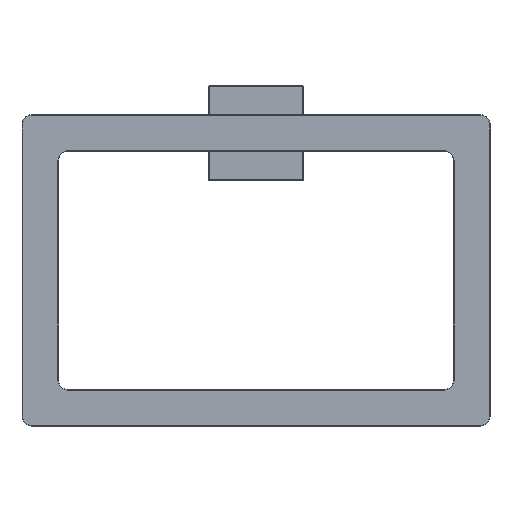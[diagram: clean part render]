
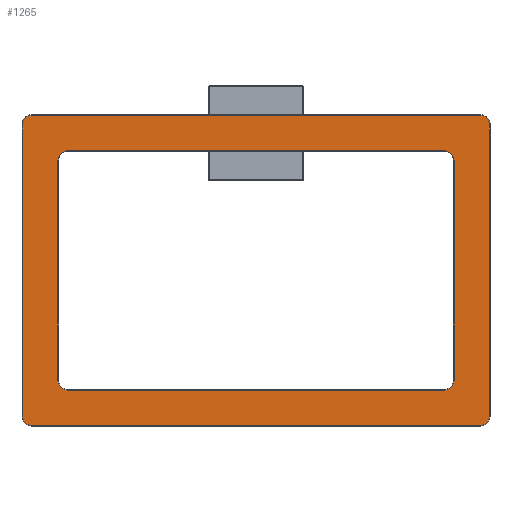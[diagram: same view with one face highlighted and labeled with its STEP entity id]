
A CAD part, top view. The second image highlights one B-rep face of the part: STEP entity #1265.
In plain terms, the highlighted planar face has unit normal (0, 0, 1).
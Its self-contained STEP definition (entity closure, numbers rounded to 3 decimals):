
#36=FACE_BOUND('',#217,.T.);
#131=FACE_OUTER_BOUND('',#216,.T.);
#216=EDGE_LOOP('',(#1061,#1062,#1063,#1064,#1065,#1066,#1067,#1068));
#217=EDGE_LOOP('',(#1069,#1070,#1071,#1072,#1073,#1074,#1075,#1076));
#294=CIRCLE('',#1404,4.3);
#297=CIRCLE('',#1409,4.3);
#301=CIRCLE('',#1415,4.3);
#304=CIRCLE('',#1420,4.3);
#305=CIRCLE('',#1423,3.7);
#306=CIRCLE('',#1424,3.7);
#307=CIRCLE('',#1425,3.7);
#308=CIRCLE('',#1426,3.7);
#400=LINE('',#2153,#496);
#401=LINE('',#2161,#497);
#402=LINE('',#2172,#498);
#404=LINE('',#2183,#500);
#407=LINE('',#2194,#503);
#408=LINE('',#2198,#504);
#409=LINE('',#2202,#505);
#410=LINE('',#2205,#506);
#496=VECTOR('',#1735,10.);
#497=VECTOR('',#1746,10.);
#498=VECTOR('',#1759,10.);
#500=VECTOR('',#1773,10.);
#503=VECTOR('',#1786,10.);
#504=VECTOR('',#1789,10.);
#505=VECTOR('',#1792,10.);
#506=VECTOR('',#1795,10.);
#598=VERTEX_POINT('',#2149);
#599=VERTEX_POINT('',#2151);
#600=VERTEX_POINT('',#2155);
#601=VERTEX_POINT('',#2159);
#603=VERTEX_POINT('',#2164);
#605=VERTEX_POINT('',#2170);
#607=VERTEX_POINT('',#2176);
#608=VERTEX_POINT('',#2181);
#609=VERTEX_POINT('',#2190);
#610=VERTEX_POINT('',#2191);
#611=VERTEX_POINT('',#2193);
#612=VERTEX_POINT('',#2195);
#613=VERTEX_POINT('',#2197);
#614=VERTEX_POINT('',#2199);
#615=VERTEX_POINT('',#2201);
#616=VERTEX_POINT('',#2203);
#748=EDGE_CURVE('',#599,#598,#400,.T.);
#750=EDGE_CURVE('',#600,#599,#294,.T.);
#752=EDGE_CURVE('',#601,#600,#401,.T.);
#754=EDGE_CURVE('',#603,#601,#297,.T.);
#757=EDGE_CURVE('',#605,#603,#402,.T.);
#760=EDGE_CURVE('',#607,#605,#301,.T.);
#763=EDGE_CURVE('',#608,#607,#404,.T.);
#765=EDGE_CURVE('',#598,#608,#304,.T.);
#767=EDGE_CURVE('',#609,#610,#305,.T.);
#768=EDGE_CURVE('',#611,#609,#407,.T.);
#769=EDGE_CURVE('',#612,#611,#306,.T.);
#770=EDGE_CURVE('',#613,#612,#408,.T.);
#771=EDGE_CURVE('',#614,#613,#307,.T.);
#772=EDGE_CURVE('',#615,#614,#409,.T.);
#773=EDGE_CURVE('',#616,#615,#308,.T.);
#774=EDGE_CURVE('',#610,#616,#410,.T.);
#1061=ORIENTED_EDGE('',*,*,#767,.F.);
#1062=ORIENTED_EDGE('',*,*,#768,.F.);
#1063=ORIENTED_EDGE('',*,*,#769,.F.);
#1064=ORIENTED_EDGE('',*,*,#770,.F.);
#1065=ORIENTED_EDGE('',*,*,#771,.F.);
#1066=ORIENTED_EDGE('',*,*,#772,.F.);
#1067=ORIENTED_EDGE('',*,*,#773,.F.);
#1068=ORIENTED_EDGE('',*,*,#774,.F.);
#1069=ORIENTED_EDGE('',*,*,#748,.F.);
#1070=ORIENTED_EDGE('',*,*,#750,.F.);
#1071=ORIENTED_EDGE('',*,*,#752,.F.);
#1072=ORIENTED_EDGE('',*,*,#754,.F.);
#1073=ORIENTED_EDGE('',*,*,#757,.F.);
#1074=ORIENTED_EDGE('',*,*,#760,.F.);
#1075=ORIENTED_EDGE('',*,*,#763,.F.);
#1076=ORIENTED_EDGE('',*,*,#765,.F.);
#1204=PLANE('',#1422);
#1265=ADVANCED_FACE('',(#131,#36),#1204,.T.);
#1404=AXIS2_PLACEMENT_3D('',#2157,#1740,#1741);
#1409=AXIS2_PLACEMENT_3D('',#2166,#1751,#1752);
#1415=AXIS2_PLACEMENT_3D('',#2178,#1765,#1766);
#1420=AXIS2_PLACEMENT_3D('',#2186,#1777,#1778);
#1422=AXIS2_PLACEMENT_3D('',#2189,#1782,#1783);
#1423=AXIS2_PLACEMENT_3D('',#2192,#1784,#1785);
#1424=AXIS2_PLACEMENT_3D('',#2196,#1787,#1788);
#1425=AXIS2_PLACEMENT_3D('',#2200,#1790,#1791);
#1426=AXIS2_PLACEMENT_3D('',#2204,#1793,#1794);
#1735=DIRECTION('',(-1.,0.,0.));
#1740=DIRECTION('center_axis',(0.,0.,1.));
#1741=DIRECTION('ref_axis',(0.707,0.707,0.));
#1746=DIRECTION('',(0.,1.,0.));
#1751=DIRECTION('center_axis',(0.,0.,1.));
#1752=DIRECTION('ref_axis',(0.707,-0.707,0.));
#1759=DIRECTION('',(1.,0.,0.));
#1765=DIRECTION('center_axis',(0.,0.,1.));
#1766=DIRECTION('ref_axis',(-0.707,-0.707,0.));
#1773=DIRECTION('',(0.,-1.,0.));
#1777=DIRECTION('center_axis',(0.,0.,1.));
#1778=DIRECTION('ref_axis',(-0.707,0.707,0.));
#1782=DIRECTION('center_axis',(0.,0.,1.));
#1783=DIRECTION('ref_axis',(1.,0.,0.));
#1784=DIRECTION('center_axis',(0.,0.,-1.));
#1785=DIRECTION('ref_axis',(-0.707,0.707,0.));
#1786=DIRECTION('',(0.,1.,0.));
#1787=DIRECTION('center_axis',(0.,0.,-1.));
#1788=DIRECTION('ref_axis',(-0.707,-0.707,0.));
#1789=DIRECTION('',(-1.,0.,0.));
#1790=DIRECTION('center_axis',(0.,0.,-1.));
#1791=DIRECTION('ref_axis',(0.707,-0.707,0.));
#1792=DIRECTION('',(0.,-1.,0.));
#1793=DIRECTION('center_axis',(0.,0.,-1.));
#1794=DIRECTION('ref_axis',(0.707,0.707,0.));
#1795=DIRECTION('',(1.,0.,0.));
#2149=CARTESIAN_POINT('',(-81.6,-7.65,50.8));
#2151=CARTESIAN_POINT('',(81.6,-7.65,50.8));
#2153=CARTESIAN_POINT('',(-42.8,-7.65,50.8));
#2155=CARTESIAN_POINT('',(85.9,-11.95,50.8));
#2157=CARTESIAN_POINT('Origin',(81.6,-11.95,50.8));
#2159=CARTESIAN_POINT('',(85.9,-107.15,50.8));
#2161=CARTESIAN_POINT('',(85.9,-33.75,50.8));
#2164=CARTESIAN_POINT('',(81.6,-111.45,50.8));
#2166=CARTESIAN_POINT('Origin',(81.6,-107.15,50.8));
#2170=CARTESIAN_POINT('',(-81.6,-111.45,50.8));
#2172=CARTESIAN_POINT('',(42.8,-111.45,50.8));
#2176=CARTESIAN_POINT('',(-85.9,-107.15,50.8));
#2178=CARTESIAN_POINT('Origin',(-81.6,-107.15,50.8));
#2181=CARTESIAN_POINT('',(-85.9,-11.95,50.8));
#2183=CARTESIAN_POINT('',(-85.9,-85.35,50.8));
#2186=CARTESIAN_POINT('Origin',(-81.6,-11.95,50.8));
#2189=CARTESIAN_POINT('Origin',(0.,-59.55,50.8));
#2190=CARTESIAN_POINT('',(-101.2,3.95,50.8));
#2191=CARTESIAN_POINT('',(-97.5,7.65,50.8));
#2192=CARTESIAN_POINT('Origin',(-97.5,3.95,50.8));
#2193=CARTESIAN_POINT('',(-101.2,-123.05,50.8));
#2194=CARTESIAN_POINT('',(-101.2,-25.8,50.8));
#2195=CARTESIAN_POINT('',(-97.5,-126.75,50.8));
#2196=CARTESIAN_POINT('Origin',(-97.5,-123.05,50.8));
#2197=CARTESIAN_POINT('',(97.5,-126.75,50.8));
#2198=CARTESIAN_POINT('',(-50.75,-126.75,50.8));
#2199=CARTESIAN_POINT('',(101.2,-123.05,50.8));
#2200=CARTESIAN_POINT('Origin',(97.5,-123.05,50.8));
#2201=CARTESIAN_POINT('',(101.2,3.95,50.8));
#2202=CARTESIAN_POINT('',(101.2,-93.3,50.8));
#2203=CARTESIAN_POINT('',(97.5,7.65,50.8));
#2204=CARTESIAN_POINT('Origin',(97.5,3.95,50.8));
#2205=CARTESIAN_POINT('',(50.75,7.65,50.8));
